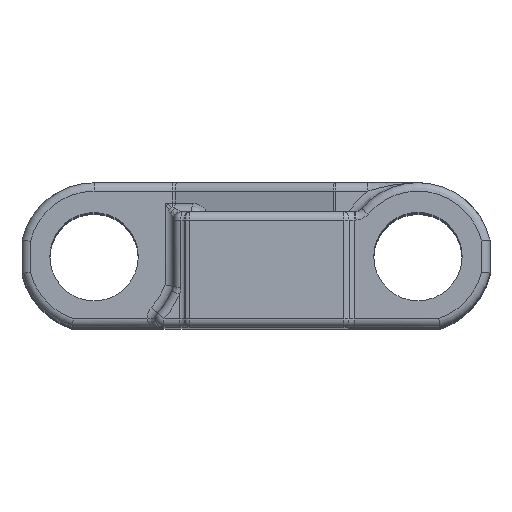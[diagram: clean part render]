
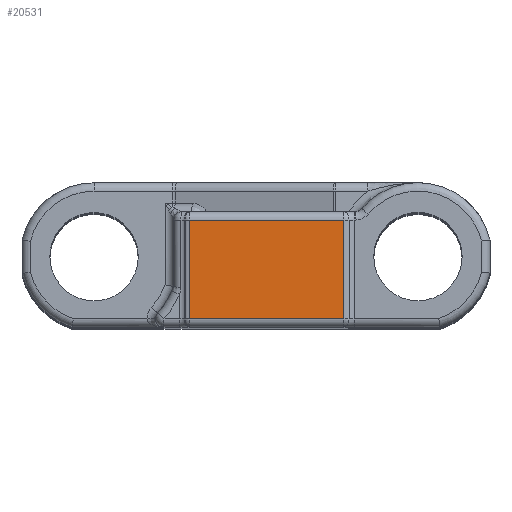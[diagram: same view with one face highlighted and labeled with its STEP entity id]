
A CAD part, top view. The second image highlights one B-rep face of the part: STEP entity #20531.
In plain terms, the highlighted planar face has unit normal (0, 0, 1).
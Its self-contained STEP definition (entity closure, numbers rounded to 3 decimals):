
#5421=DIRECTION('',(1.,0.,0.));
#5422=VECTOR('',#5421,9.067);
#5423=CARTESIAN_POINT('',(-3.892,-3.65,38.));
#5424=LINE('',#5423,#5422);
#5425=DIRECTION('',(0.,-1.,0.));
#5426=VECTOR('',#5425,5.8);
#5427=CARTESIAN_POINT('',(-3.892,2.15,38.));
#5428=LINE('',#5427,#5426);
#5429=DIRECTION('',(1.,0.,0.));
#5430=VECTOR('',#5429,9.067);
#5431=CARTESIAN_POINT('',(-3.892,2.15,38.));
#5432=LINE('',#5431,#5430);
#5433=DIRECTION('',(0.,-1.,0.));
#5434=VECTOR('',#5433,5.8);
#5435=CARTESIAN_POINT('',(5.175,2.15,38.));
#5436=LINE('',#5435,#5434);
#12467=CARTESIAN_POINT('',(5.175,-3.65,38.));
#12468=VERTEX_POINT('',#12467);
#12469=CARTESIAN_POINT('',(-3.892,-3.65,38.));
#12470=VERTEX_POINT('',#12469);
#12494=CARTESIAN_POINT('',(5.175,2.15,38.));
#12495=VERTEX_POINT('',#12494);
#12500=CARTESIAN_POINT('',(-3.892,2.15,38.));
#12501=VERTEX_POINT('',#12500);
#20518=CARTESIAN_POINT('',(-4.043,-4.15,38.));
#20519=DIRECTION('',(0.,0.,1.));
#20520=DIRECTION('',(1.,0.,0.));
#20521=AXIS2_PLACEMENT_3D('',#20518,#20519,#20520);
#20522=PLANE('',#20521);
#20523=ORIENTED_EDGE('',*,*,#20509,.F.);
#20524=ORIENTED_EDGE('',*,*,#20486,.F.);
#20526=ORIENTED_EDGE('',*,*,#20525,.T.);
#20528=ORIENTED_EDGE('',*,*,#20527,.T.);
#20529=EDGE_LOOP('',(#20523,#20524,#20526,#20528));
#20530=FACE_OUTER_BOUND('',#20529,.F.);
#20531=ADVANCED_FACE('',(#20530),#20522,.T.);
#20486=EDGE_CURVE('',#12501,#12470,#5428,.T.);
#20509=EDGE_CURVE('',#12470,#12468,#5424,.T.);
#20525=EDGE_CURVE('',#12501,#12495,#5432,.T.);
#20527=EDGE_CURVE('',#12495,#12468,#5436,.T.);
